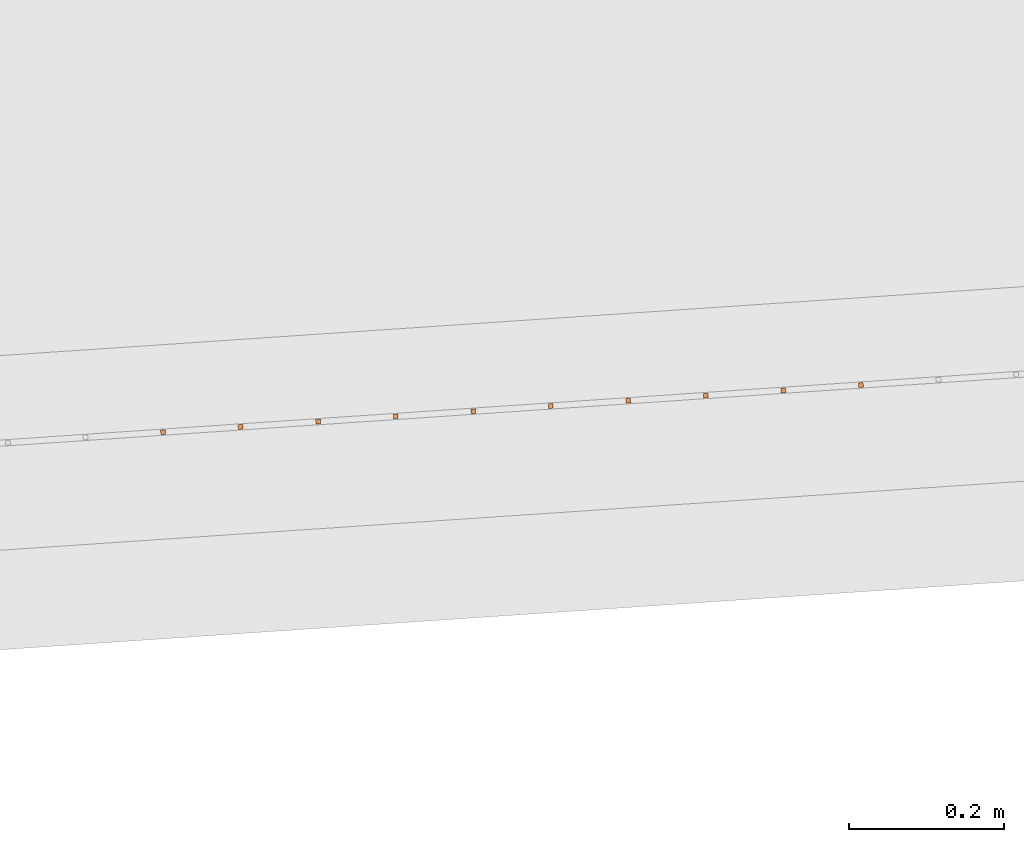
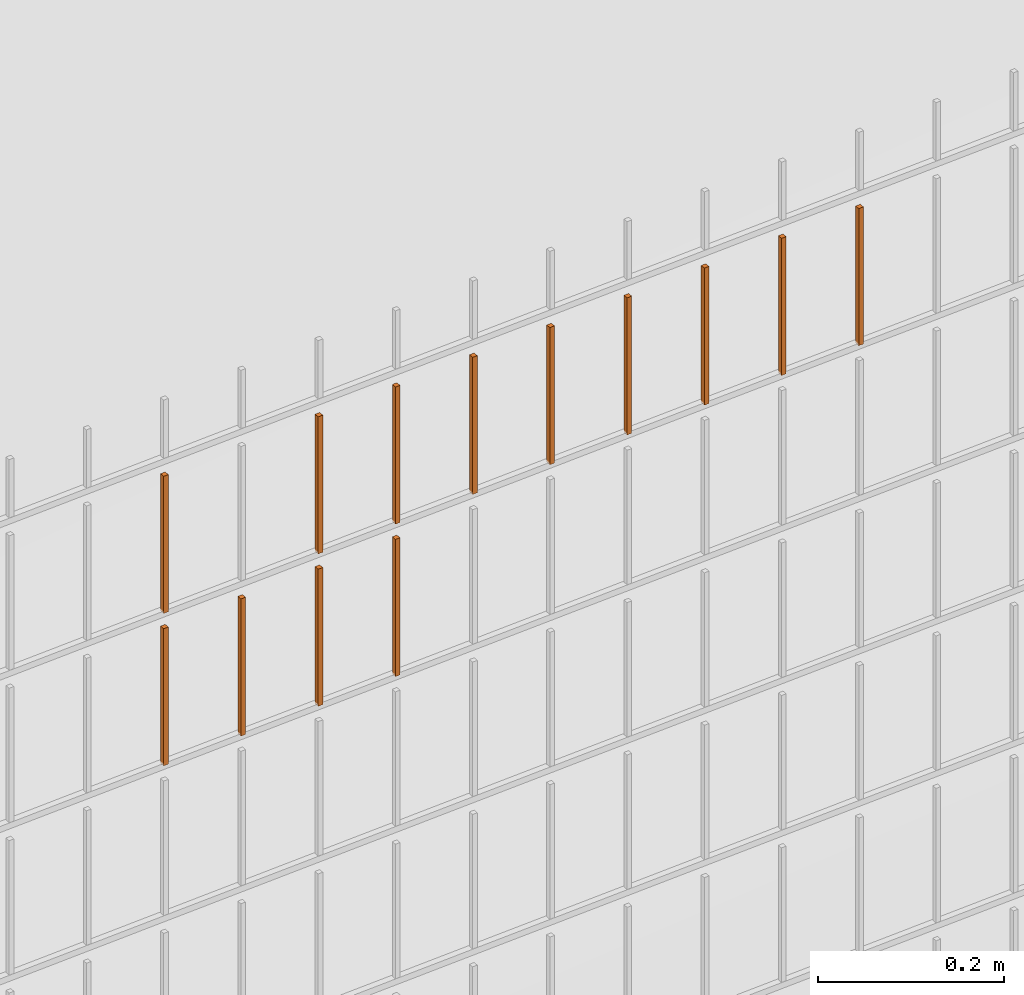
# One storey, part 171 of 1809: 13 proxies, 1 element without a shape of its own.
"""IFC2X3 building model written with IfcOpenShell, lengths in millimetres."""

from ifc_helpers import new_model, entity, si_unit, converted_unit, derived_unit, money_unit, direction, frame, origin_with_axes, place, context, subcontext, project, spatial, faceted_brep, source, transform, mapped, material, type_object, element, aggregate, save


model = new_model("IFC2X3")

# Units and contexts
model_context = context("Model", 3, precision=0.01, world=origin_with_axes(), true_north=direction((0.0, 1.0)))
body_context = subcontext(model_context, "Body", "Model", "MODEL_VIEW")
ifc_project = project(units=[si_unit("LENGTHUNIT", "METRE", prefix="MILLI"), si_unit("AREAUNIT", "SQUARE_METRE"), si_unit("VOLUMEUNIT", "CUBIC_METRE"), converted_unit("PLANEANGLEUNIT", "DEGREE", entity("IfcPlaneAngleMeasure", 0.0174532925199), si_unit("PLANEANGLEUNIT", "RADIAN"), dimensions=[0, 0, 0, 0, 0, 0, 0]), si_unit("SOLIDANGLEUNIT", "STERADIAN"), money_unit("EUR"), converted_unit("TIMEUNIT", "Year", entity("IfcTimeMeasure", 31556926.0), si_unit("TIMEUNIT", "SECOND"), dimensions=[0, 0, 1, 0, 0, 0, 0]), si_unit("MASSUNIT", "GRAM", prefix="KILO"), si_unit("THERMODYNAMICTEMPERATUREUNIT", "DEGREE_CELSIUS"), si_unit("LUMINOUSINTENSITYUNIT", "LUMEN"), si_unit("ENERGYUNIT", "JOULE", prefix="MEGA"), derived_unit("THERMALCONDUCTANCEUNIT", [(si_unit("POWERUNIT", "WATT"), 1), (si_unit("LENGTHUNIT", "METRE"), -1), (si_unit("THERMODYNAMICTEMPERATUREUNIT", "KELVIN"), -1)]), derived_unit("SPECIFICHEATCAPACITYUNIT", [(si_unit("ENERGYUNIT", "JOULE"), 1), (si_unit("MASSUNIT", "GRAM", prefix="KILO"), -1), (si_unit("THERMODYNAMICTEMPERATUREUNIT", "KELVIN"), -1)]), derived_unit("MASSDENSITYUNIT", [(si_unit("MASSUNIT", "GRAM", prefix="KILO"), 1), (si_unit("VOLUMEUNIT", "CUBIC_METRE"), -1)])], contexts=[model_context])

# Site, building, storey
site_placement = place(None, origin_with_axes())
site = spatial("IfcSite", under=ifc_project, at=site_placement, Name="Politse- ja Piirivalveameti ning Päästeameti ühishoone", CompositionType="ELEMENT")
building_placement = place(site_placement, origin_with_axes())
building = spatial("IfcBuilding", under=site, at=building_placement, Name="Politse- ja Piirivalveameti ning Päästeameti ühishoone", CompositionType="ELEMENT")
storey_placement = place(building_placement, origin_with_axes())
storey = spatial("IfcBuildingStorey", under=building, at=storey_placement, Name="Esimene korrus", CompositionType="ELEMENT", Elevation=0.0)

# Proxies
building_element_proxy_type_1 = type_object("IfcBuildingElementProxyType", Name="Railing Type", PredefinedType="NOTDEFINED")
proxy_1_placement = place(storey_placement, frame((89252.001212, -29183.4766571, 203.661247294), z_axis=(0.0, 0.0, 1.0), x_axis=(1.0, 0.0, 0.0)))
proxy_1 = element("IfcBuildingElementProxy", 1, at=proxy_1_placement, inside=storey, type_object=building_element_proxy_type_1, Name="PIIRDEAED")
ifc_material = material(Name="ET-03_Raud")
building_element_proxy_type_2 = type_object("IfcBuildingElementProxyType", Name="IfcBuildingElementProxy", PredefinedType="NOTDEFINED")
shared_shape_1 = source(origin_with_axes(), body_context, "Body", "Brep", [
    faceted_brep([(3.0, 3.0, -0.000752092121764), (-3.0, 3.0, -0.000752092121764), (-3.0, 3.0, 179.99926046), (3.0, 3.0, 179.99926046), (3.0, -3.0, 0.000752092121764), (-3.0, -3.0, 0.000752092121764), (-3.0, -3.0, 180.000764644), (3.0, -3.0, 180.000764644)], [[[0, 1, 2, 3]], [[0, 4, 5, 1]], [[1, 5, 6, 2]], [[3, 2, 6, 7]], [[4, 0, 3, 7]], [[5, 4, 7, 6]]]),
])
proxy_2_placement = place(proxy_1_placement, frame((-75754.0709399, -22414.676368, 1808.19976423), z_axis=(0.0, 0.0, 1.0), x_axis=(1.0, 0.0, 0.0)))
proxy_2 = element("IfcBuildingElementProxy", 2, at=proxy_2_placement, type_object=building_element_proxy_type_2, material=ifc_material, Name="BALUSTER - 001", context=body_context, shape_type="MappedRepresentation", body=[
    mapped(shared_shape_1, transform((0.0, 0.0, 0.0), x_axis=(-0.0673926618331, 0.997726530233, 0.0), y_axis=(-0.997726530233, -0.0673926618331, 0.0), z_axis=(0.0, 0.0, 1.0))),
])
shared_shape_2 = source(origin_with_axes(), body_context, "Body", "Brep", [
    faceted_brep([(3.0, 3.0, -0.000752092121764), (-3.0, 3.0, -0.000752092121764), (-3.0, 3.0, 179.99926046), (3.0, 3.0, 179.99926046), (3.0, -3.0, 0.000752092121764), (-3.0, -3.0, 0.000752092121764), (-3.0, -3.0, 180.000764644), (3.0, -3.0, 180.000764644)], [[[0, 1, 2, 3]], [[0, 4, 5, 1]], [[1, 5, 6, 2]], [[3, 2, 6, 7]], [[4, 0, 3, 7]], [[5, 4, 7, 6]]]),
])
proxy_3_placement = place(proxy_1_placement, frame((-75354.9803278, -22387.7193033, 1808.30004318), z_axis=(0.0, 0.0, 1.0), x_axis=(1.0, 0.0, 0.0)))
proxy_3 = element("IfcBuildingElementProxy", 3, at=proxy_3_placement, type_object=building_element_proxy_type_2, material=ifc_material, Name="BALUSTER - 001", context=body_context, shape_type="MappedRepresentation", body=[
    mapped(shared_shape_2, transform((0.0, 0.0, 0.0), x_axis=(-0.0673926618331, 0.997726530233, 0.0), y_axis=(-0.997726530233, -0.0673926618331, 0.0), z_axis=(0.0, 0.0, 1.0))),
])
proxy_4_placement = place(proxy_1_placement, frame((-75554.5256338, -22401.1978357, 1808.2499037), z_axis=(0.0, 0.0, 1.0), x_axis=(1.0, 0.0, 0.0)))
proxy_4 = element("IfcBuildingElementProxy", 4, at=proxy_4_placement, type_object=building_element_proxy_type_2, material=ifc_material, Name="BALUSTER - 001", context=body_context, shape_type="MappedRepresentation", body=[
    mapped(shared_shape_2, transform((0.0, 0.0, 0.0), x_axis=(-0.0673926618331, 0.997726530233, 0.0), y_axis=(-0.997726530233, -0.0673926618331, 0.0), z_axis=(0.0, 0.0, 1.0))),
])
proxy_5_placement = place(proxy_1_placement, frame((-76153.161552, -22441.6334328, 1808.09948528), z_axis=(0.0, 0.0, 1.0), x_axis=(1.0, 0.0, 0.0)))
proxy_5 = element("IfcBuildingElementProxy", 5, at=proxy_5_placement, type_object=building_element_proxy_type_2, material=ifc_material, Name="BALUSTER - 001", context=body_context, shape_type="MappedRepresentation", body=[
    mapped(shared_shape_2, transform((0.0, 0.0, 0.0), x_axis=(-0.0673926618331, 0.997726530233, 0.0), y_axis=(-0.997726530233, -0.0673926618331, 0.0), z_axis=(0.0, 0.0, 1.0))),
])
shared_shape_3 = source(origin_with_axes(), body_context, "Body", "Brep", [
    faceted_brep([(3.0, 3.0, -0.000752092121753), (-3.0, 3.0, -0.000752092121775), (-3.0, 3.0, 179.99926046), (3.0, 3.0, 179.99926046), (3.0, -3.0, 0.000752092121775), (-3.0, -3.0, 0.000752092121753), (-3.0, -3.0, 180.000764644), (3.0, -3.0, 180.000764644)], [[[0, 1, 2, 3]], [[0, 4, 5, 1]], [[1, 5, 6, 2]], [[3, 2, 6, 7]], [[4, 0, 3, 7]], [[5, 4, 7, 6]]]),
])
proxy_6_placement = place(proxy_1_placement, frame((-75255.2076748, -22380.9800371, 1808.32511291), z_axis=(0.0, 0.0, 1.0), x_axis=(1.0, 0.0, 0.0)))
proxy_6 = element("IfcBuildingElementProxy", 6, at=proxy_6_placement, type_object=building_element_proxy_type_2, material=ifc_material, Name="BALUSTER - 001", context=body_context, shape_type="MappedRepresentation", body=[
    mapped(shared_shape_3, transform((0.0, 0.0, 0.0), x_axis=(-0.0673926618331, 0.997726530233, 0.0), y_axis=(-0.997726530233, -0.0673926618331, 0.0), z_axis=(0.0, 0.0, 1.0))),
])
shared_shape_4 = source(origin_with_axes(), body_context, "Body", "Brep", [
    faceted_brep([(3.0, 3.0, -0.000752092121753), (-3.0, 3.0, -0.000752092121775), (-3.0, 3.0, 179.99926046), (3.0, 3.0, 179.99926046), (3.0, -3.0, 0.000752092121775), (-3.0, -3.0, 0.000752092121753), (-3.0, -3.0, 180.000764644), (3.0, -3.0, 180.000764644)], [[[0, 1, 2, 3]], [[0, 4, 5, 1]], [[1, 5, 6, 2]], [[3, 2, 6, 7]], [[4, 0, 3, 7]], [[5, 4, 7, 6]]]),
])
proxy_7_placement = place(proxy_1_placement, frame((-75853.8435929, -22421.4156342, 1608.17469449), z_axis=(0.0, 0.0, 1.0), x_axis=(1.0, 0.0, 0.0)))
proxy_7 = element("IfcBuildingElementProxy", 7, at=proxy_7_placement, type_object=building_element_proxy_type_2, material=ifc_material, Name="BALUSTER - 001", context=body_context, shape_type="MappedRepresentation", body=[
    mapped(shared_shape_4, transform((0.0, 0.0, 0.0), x_axis=(-0.0673926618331, 0.997726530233, 0.0), y_axis=(-0.997726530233, -0.0673926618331, 0.0), z_axis=(0.0, 0.0, 1.0))),
])
shared_shape_5 = source(origin_with_axes(), body_context, "Body", "Brep", [
    faceted_brep([(3.0, 3.0, -0.000752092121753), (-3.0, 3.0, -0.000752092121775), (-3.0, 3.0, 179.99926046), (3.0, 3.0, 179.99926046), (3.0, -3.0, 0.000752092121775), (-3.0, -3.0, 0.000752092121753), (-3.0, -3.0, 180.000764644), (3.0, -3.0, 180.000764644)], [[[0, 1, 2, 3]], [[0, 4, 5, 1]], [[1, 5, 6, 2]], [[3, 2, 6, 7]], [[4, 0, 3, 7]], [[5, 4, 7, 6]]]),
])
proxy_8_placement = place(proxy_1_placement, frame((-75853.8435929, -22421.4156342, 1808.17469449), z_axis=(0.0, 0.0, 1.0), x_axis=(1.0, 0.0, 0.0)))
proxy_8 = element("IfcBuildingElementProxy", 8, at=proxy_8_placement, type_object=building_element_proxy_type_2, material=ifc_material, Name="BALUSTER - 001", context=body_context, shape_type="MappedRepresentation", body=[
    mapped(shared_shape_5, transform((0.0, 0.0, 0.0), x_axis=(-0.0673926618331, 0.997726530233, 0.0), y_axis=(-0.997726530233, -0.0673926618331, 0.0), z_axis=(0.0, 0.0, 1.0))),
])
shared_shape_6 = source(origin_with_axes(), body_context, "Body", "Brep", [
    faceted_brep([(3.0, 3.0, -0.000752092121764), (-3.0, 3.0, -0.000752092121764), (-3.0, 3.0, 179.99926046), (3.0, 3.0, 179.99926046), (3.0, -3.0, 0.000752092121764), (-3.0, -3.0, 0.000752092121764), (-3.0, -3.0, 180.000764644), (3.0, -3.0, 180.000764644)], [[[0, 1, 2, 3]], [[0, 4, 5, 1]], [[1, 5, 6, 2]], [[3, 2, 6, 7]], [[4, 0, 3, 7]], [[5, 4, 7, 6]]]),
])
proxy_9_placement = place(proxy_1_placement, frame((-75454.7529808, -22394.4585695, 1808.27497344), z_axis=(0.0, 0.0, 1.0), x_axis=(1.0, 0.0, 0.0)))
proxy_9 = element("IfcBuildingElementProxy", 9, at=proxy_9_placement, type_object=building_element_proxy_type_2, material=ifc_material, Name="BALUSTER - 001", context=body_context, shape_type="MappedRepresentation", body=[
    mapped(shared_shape_6, transform((0.0, 0.0, 0.0), x_axis=(-0.0673926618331, 0.997726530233, 0.0), y_axis=(-0.997726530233, -0.0673926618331, 0.0), z_axis=(0.0, 0.0, 1.0))),
])
shared_shape_7 = source(origin_with_axes(), body_context, "Body", "Brep", [
    faceted_brep([(3.0, 3.0, -0.000752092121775), (-3.0, 3.0, -0.000752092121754), (-3.0, 3.0, 179.99926046), (3.0, 3.0, 179.99926046), (3.0, -3.0, 0.000752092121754), (-3.0, -3.0, 0.000752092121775), (-3.0, -3.0, 180.000764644), (3.0, -3.0, 180.000764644)], [[[0, 1, 2, 3]], [[0, 4, 5, 1]], [[1, 5, 6, 2]], [[3, 2, 6, 7]], [[4, 0, 3, 7]], [[5, 4, 7, 6]]]),
])
proxy_10_placement = place(proxy_1_placement, frame((-75953.6162459, -22428.1549004, 1808.14962475), z_axis=(0.0, 0.0, 1.0), x_axis=(1.0, 0.0, 0.0)))
proxy_10 = element("IfcBuildingElementProxy", 10, at=proxy_10_placement, type_object=building_element_proxy_type_2, material=ifc_material, Name="BALUSTER - 001", context=body_context, shape_type="MappedRepresentation", body=[
    mapped(shared_shape_7, transform((0.0, 0.0, 0.0), x_axis=(-0.0673926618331, 0.997726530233, 0.0), y_axis=(-0.997726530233, -0.0673926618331, 0.0), z_axis=(0.0, 0.0, 1.0))),
])
shared_shape_8 = source(origin_with_axes(), body_context, "Body", "Brep", [
    faceted_brep([(3.0, 3.0, -0.000752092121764), (-3.0, 3.0, -0.000752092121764), (-3.0, 3.0, 179.99926046), (3.0, 3.0, 179.99926046), (3.0, -3.0, 0.000752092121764), (-3.0, -3.0, 0.000752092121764), (-3.0, -3.0, 180.000764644), (3.0, -3.0, 180.000764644)], [[[0, 1, 2, 3]], [[0, 4, 5, 1]], [[1, 5, 6, 2]], [[3, 2, 6, 7]], [[4, 0, 3, 7]], [[5, 4, 7, 6]]]),
])
proxy_11_placement = place(proxy_1_placement, frame((-76153.161552, -22441.6334328, 1608.09948528), z_axis=(0.0, 0.0, 1.0), x_axis=(1.0, 0.0, 0.0)))
proxy_11 = element("IfcBuildingElementProxy", 11, at=proxy_11_placement, type_object=building_element_proxy_type_2, material=ifc_material, Name="BALUSTER - 001", context=body_context, shape_type="MappedRepresentation", body=[
    mapped(shared_shape_8, transform((0.0, 0.0, 0.0), x_axis=(-0.0673926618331, 0.997726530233, 0.0), y_axis=(-0.997726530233, -0.0673926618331, 0.0), z_axis=(0.0, 0.0, 1.0))),
])
shared_shape_9 = source(origin_with_axes(), body_context, "Body", "Brep", [
    faceted_brep([(3.0, 3.0, -0.000752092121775), (-3.0, 3.0, -0.000752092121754), (-3.0, 3.0, 179.99926046), (3.0, 3.0, 179.99926046), (3.0, -3.0, 0.000752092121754), (-3.0, -3.0, 0.000752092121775), (-3.0, -3.0, 180.000764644), (3.0, -3.0, 180.000764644)], [[[0, 1, 2, 3]], [[0, 4, 5, 1]], [[1, 5, 6, 2]], [[3, 2, 6, 7]], [[4, 0, 3, 7]], [[5, 4, 7, 6]]]),
])
proxy_12_placement = place(proxy_1_placement, frame((-75953.6162459, -22428.1549004, 1608.14962475), z_axis=(0.0, 0.0, 1.0), x_axis=(1.0, 0.0, 0.0)))
proxy_12 = element("IfcBuildingElementProxy", 12, at=proxy_12_placement, type_object=building_element_proxy_type_2, material=ifc_material, Name="BALUSTER - 001", context=body_context, shape_type="MappedRepresentation", body=[
    mapped(shared_shape_9, transform((0.0, 0.0, 0.0), x_axis=(-0.0673926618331, 0.997726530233, 0.0), y_axis=(-0.997726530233, -0.0673926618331, 0.0), z_axis=(0.0, 0.0, 1.0))),
])
shared_shape_10 = source(origin_with_axes(), body_context, "Body", "Brep", [
    faceted_brep([(3.0, 3.0, -0.000752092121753), (-3.0, 3.0, -0.000752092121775), (-3.0, 3.0, 179.99926046), (3.0, 3.0, 179.99926046), (3.0, -3.0, 0.000752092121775), (-3.0, -3.0, 0.000752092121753), (-3.0, -3.0, 180.000764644), (3.0, -3.0, 180.000764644)], [[[0, 1, 2, 3]], [[0, 4, 5, 1]], [[1, 5, 6, 2]], [[3, 2, 6, 7]], [[4, 0, 3, 7]], [[5, 4, 7, 6]]]),
])
proxy_13_placement = place(proxy_1_placement, frame((-75654.2982869, -22407.9371019, 1808.22483396), z_axis=(0.0, 0.0, 1.0), x_axis=(1.0, 0.0, 0.0)))
proxy_13 = element("IfcBuildingElementProxy", 13, at=proxy_13_placement, type_object=building_element_proxy_type_2, material=ifc_material, Name="BALUSTER - 001", context=body_context, shape_type="MappedRepresentation", body=[
    mapped(shared_shape_10, transform((0.0, 0.0, 0.0), x_axis=(-0.0673926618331, 0.997726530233, 0.0), y_axis=(-0.997726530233, -0.0673926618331, 0.0), z_axis=(0.0, 0.0, 1.0))),
])
shared_shape_11 = source(origin_with_axes(), body_context, "Body", "Brep", [
    faceted_brep([(3.0, 3.0, -0.000752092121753), (-3.0, 3.0, -0.000752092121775), (-3.0, 3.0, 179.99926046), (3.0, 3.0, 179.99926046), (3.0, -3.0, 0.000752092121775), (-3.0, -3.0, 0.000752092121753), (-3.0, -3.0, 180.000764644), (3.0, -3.0, 180.000764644)], [[[0, 1, 2, 3]], [[0, 4, 5, 1]], [[1, 5, 6, 2]], [[3, 2, 6, 7]], [[4, 0, 3, 7]], [[5, 4, 7, 6]]]),
])
proxy_14_placement = place(proxy_1_placement, frame((-76053.3888989, -22434.8941666, 1608.12455501), z_axis=(0.0, 0.0, 1.0), x_axis=(1.0, 0.0, 0.0)))
proxy_14 = element("IfcBuildingElementProxy", 14, at=proxy_14_placement, type_object=building_element_proxy_type_2, material=ifc_material, Name="BALUSTER - 001", context=body_context, shape_type="MappedRepresentation", body=[
    mapped(shared_shape_11, transform((0.0, 0.0, 0.0), x_axis=(-0.0673926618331, 0.997726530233, 0.0), y_axis=(-0.997726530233, -0.0673926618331, 0.0), z_axis=(0.0, 0.0, 1.0))),
])
aggregate(proxy_1, [proxy_7, proxy_12, proxy_14, proxy_11, proxy_6, proxy_3, proxy_9, proxy_4, proxy_13, proxy_2, proxy_8, proxy_10, proxy_5])

save(model, "model.ifc")
